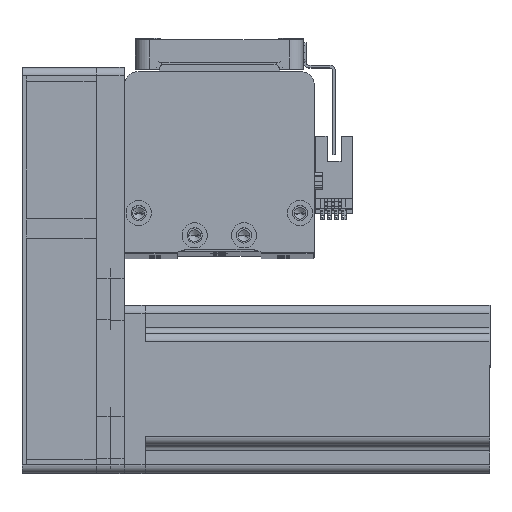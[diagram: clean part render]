
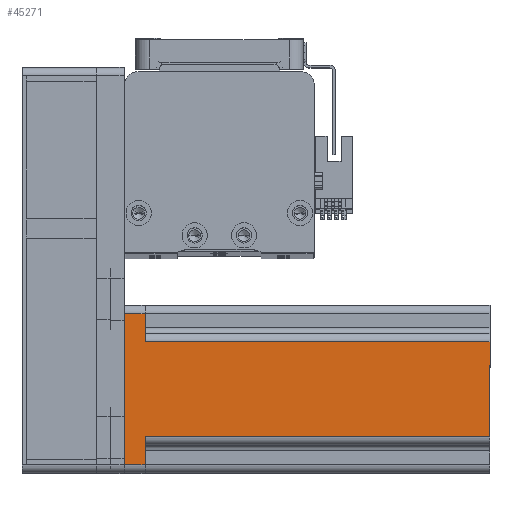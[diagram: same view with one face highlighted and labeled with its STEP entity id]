
A CAD part, top view. The second image highlights one B-rep face of the part: STEP entity #45271.
In plain terms, the highlighted planar face has unit normal (0, 0, 1) as drawn and (0, -1, 0) by its records, which use the part's own axes.
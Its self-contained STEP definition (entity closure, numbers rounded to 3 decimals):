
#9 = DIRECTION ( 'NONE',  ( 0., 0., -1. ) ) ;
#1023 = LINE ( 'NONE', #47430, #29868 ) ;
#1340 = DIRECTION ( 'NONE',  ( 0., 0., 1. ) ) ;
#2617 = VECTOR ( 'NONE', #9, 1000. ) ;
#2699 = DIRECTION ( 'NONE',  ( 0., 1., 0. ) ) ;
#5827 = ORIENTED_EDGE ( 'NONE', *, *, #19545, .T. ) ;
#6256 = VERTEX_POINT ( 'NONE', #30768 ) ;
#6358 = EDGE_CURVE ( 'NONE', #31182, #18561, #43990, .T. ) ;
#7236 = EDGE_CURVE ( 'NONE', #24526, #31182, #15587, .T. ) ;
#8725 = CARTESIAN_POINT ( 'NONE',  ( 17., -30., 130.7 ) ) ;
#9339 = CARTESIAN_POINT ( 'NONE',  ( -20., -30., 7.5 ) ) ;
#10754 = CARTESIAN_POINT ( 'NONE',  ( 27., -30., 130.7 ) ) ;
#10954 = EDGE_CURVE ( 'NONE', #25800, #24526, #47019, .T. ) ;
#13206 = ORIENTED_EDGE ( 'NONE', *, *, #6358, .T. ) ;
#13622 = CARTESIAN_POINT ( 'NONE',  ( 27., -30., 0. ) ) ;
#13869 = CARTESIAN_POINT ( 'NONE',  ( 30., -30., 0. ) ) ;
#15587 = LINE ( 'NONE', #35468, #34413 ) ;
#16148 = VERTEX_POINT ( 'NONE', #28458 ) ;
#16998 = VECTOR ( 'NONE', #33255, 1000. ) ;
#17522 = ORIENTED_EDGE ( 'NONE', *, *, #19384, .T. ) ;
#17632 = DIRECTION ( 'NONE',  ( 1., 0., 0. ) ) ;
#17705 = EDGE_CURVE ( 'NONE', #16148, #39608, #33747, .T. ) ;
#17711 = CARTESIAN_POINT ( 'NONE',  ( -27., -30., 0. ) ) ;
#18561 = VERTEX_POINT ( 'NONE', #41002 ) ;
#19135 = CARTESIAN_POINT ( 'NONE',  ( -17., -30., 7.5 ) ) ;
#19384 = EDGE_CURVE ( 'NONE', #16148, #21737, #22640, .T. ) ;
#19545 = EDGE_CURVE ( 'NONE', #6256, #39608, #28482, .T. ) ;
#20152 = ORIENTED_EDGE ( 'NONE', *, *, #31675, .F. ) ;
#20824 = VECTOR ( 'NONE', #38469, 1000. ) ;
#21737 = VERTEX_POINT ( 'NONE', #17711 ) ;
#22539 = CARTESIAN_POINT ( 'NONE',  ( -27., -30., 130.7 ) ) ;
#22640 = LINE ( 'NONE', #22539, #2617 ) ;
#24010 = VECTOR ( 'NONE', #1340, 1000. ) ;
#24418 = VECTOR ( 'NONE', #17632, 1000. ) ;
#24526 = VERTEX_POINT ( 'NONE', #43539 ) ;
#24922 = DIRECTION ( 'NONE',  ( 1., 0., 0. ) ) ;
#25219 = CARTESIAN_POINT ( 'NONE',  ( 30., -30., 130.7 ) ) ;
#25582 = ORIENTED_EDGE ( 'NONE', *, *, #7236, .T. ) ;
#25800 = VERTEX_POINT ( 'NONE', #13622 ) ;
#28458 = CARTESIAN_POINT ( 'NONE',  ( -27., -30., 7.5 ) ) ;
#28482 = LINE ( 'NONE', #42235, #20824 ) ;
#29000 = DIRECTION ( 'NONE',  ( -1., 0., 0. ) ) ;
#29276 = CARTESIAN_POINT ( 'NONE',  ( 17., -30., 7.5 ) ) ;
#29650 = FACE_OUTER_BOUND ( 'NONE', #36605, .T. ) ;
#29868 = VECTOR ( 'NONE', #24922, 1000. ) ;
#30768 = CARTESIAN_POINT ( 'NONE',  ( -17., -30., 130.7 ) ) ;
#31182 = VERTEX_POINT ( 'NONE', #29276 ) ;
#31675 = EDGE_CURVE ( 'NONE', #6256, #18561, #1023, .T. ) ;
#31700 = DIRECTION ( 'NONE',  ( -1., 0., 0. ) ) ;
#33255 = DIRECTION ( 'NONE',  ( 0., 0., 1. ) ) ;
#33747 = LINE ( 'NONE', #9339, #42565 ) ;
#34413 = VECTOR ( 'NONE', #31700, 1000. ) ;
#35468 = CARTESIAN_POINT ( 'NONE',  ( 20., -30., 7.5 ) ) ;
#35630 = DIRECTION ( 'NONE',  ( 1., 0., 0. ) ) ;
#36212 = ORIENTED_EDGE ( 'NONE', *, *, #10954, .T. ) ;
#36605 = EDGE_LOOP ( 'NONE', ( #20152, #5827, #43022, #17522, #40912, #36212, #25582, #13206 ) ) ;
#36817 = EDGE_CURVE ( 'NONE', #21737, #25800, #45617, .T. ) ;
#38469 = DIRECTION ( 'NONE',  ( 0., 0., -1. ) ) ;
#39608 = VERTEX_POINT ( 'NONE', #19135 ) ;
#39993 = PLANE ( 'NONE',  #41036 ) ;
#40912 = ORIENTED_EDGE ( 'NONE', *, *, #36817, .T. ) ;
#41002 = CARTESIAN_POINT ( 'NONE',  ( 17., -30., 130.7 ) ) ;
#41036 = AXIS2_PLACEMENT_3D ( 'NONE', #25219, #2699, #29000 ) ;
#42235 = CARTESIAN_POINT ( 'NONE',  ( -17., -30., 130.7 ) ) ;
#42565 = VECTOR ( 'NONE', #35630, 1000. ) ;
#43022 = ORIENTED_EDGE ( 'NONE', *, *, #17705, .F. ) ;
#43539 = CARTESIAN_POINT ( 'NONE',  ( 27., -30., 7.5 ) ) ;
#43990 = LINE ( 'NONE', #8725, #24010 ) ;
#45271 = ADVANCED_FACE ( 'NONE', ( #29650 ), #39993, .F. ) ;
#45617 = LINE ( 'NONE', #13869, #24418 ) ;
#47019 = LINE ( 'NONE', #10754, #16998 ) ;
#47430 = CARTESIAN_POINT ( 'NONE',  ( 30., -30., 130.7 ) ) ;
